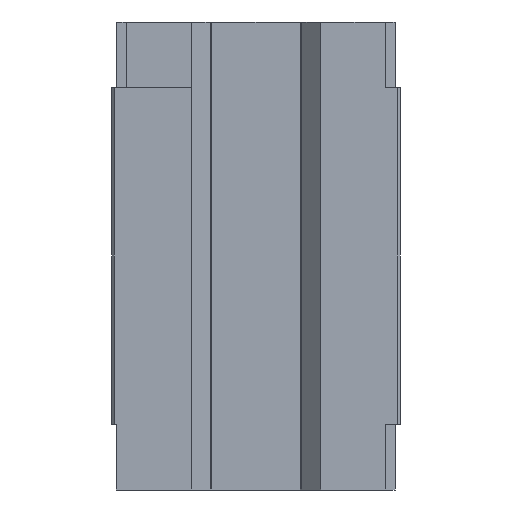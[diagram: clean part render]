
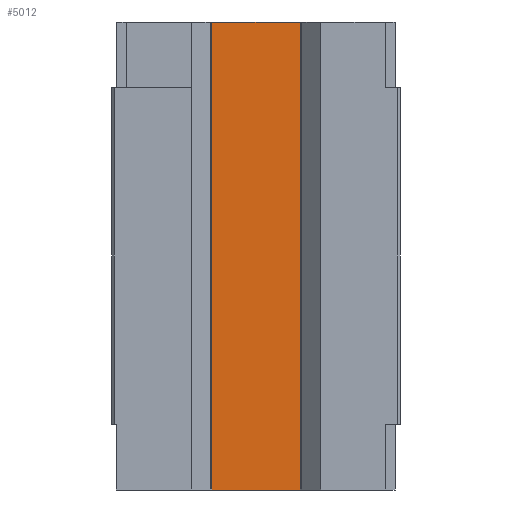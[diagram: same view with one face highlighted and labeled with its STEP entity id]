
A CAD part, front view. The second image highlights one B-rep face of the part: STEP entity #5012.
In plain terms, the highlighted planar face has unit normal (0, -1, 0).
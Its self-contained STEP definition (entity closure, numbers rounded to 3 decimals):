
#100 = VERTEX_POINT ( 'NONE', #5349 ) ;
#771 = LINE ( 'NONE', #4843, #1139 ) ;
#900 = VERTEX_POINT ( 'NONE', #1052 ) ;
#1052 = CARTESIAN_POINT ( 'NONE',  ( -9.256, 0., -48.7 ) ) ;
#1139 = VECTOR ( 'NONE', #4852, 1000. ) ;
#1237 = EDGE_CURVE ( 'NONE', #8463, #900, #4435, .T. ) ;
#1298 = ORIENTED_EDGE ( 'NONE', *, *, #4644, .F. ) ;
#1389 = ORIENTED_EDGE ( 'NONE', *, *, #1599, .T. ) ;
#1599 = EDGE_CURVE ( 'NONE', #900, #4623, #2647, .T. ) ;
#1744 = CARTESIAN_POINT ( 'NONE',  ( -9.256, 0., 48.7 ) ) ;
#1797 = CARTESIAN_POINT ( 'NONE',  ( -9.256, 0., -48.7 ) ) ;
#2046 = EDGE_LOOP ( 'NONE', ( #3548, #1389, #4470, #1298 ) ) ;
#2400 = VECTOR ( 'NONE', #4808, 1000. ) ;
#2647 = LINE ( 'NONE', #1797, #2400 ) ;
#3494 = DIRECTION ( 'NONE',  ( 0., 0., -1. ) ) ;
#3513 = CARTESIAN_POINT ( 'NONE',  ( -9.256, 0., 48.7 ) ) ;
#3548 = ORIENTED_EDGE ( 'NONE', *, *, #1237, .T. ) ;
#4084 = AXIS2_PLACEMENT_3D ( 'NONE', #7830, #7502, #7475 ) ;
#4435 = LINE ( 'NONE', #1744, #4577 ) ;
#4470 = ORIENTED_EDGE ( 'NONE', *, *, #6527, .F. ) ;
#4577 = VECTOR ( 'NONE', #3494, 1000. ) ;
#4623 = VERTEX_POINT ( 'NONE', #6831 ) ;
#4644 = EDGE_CURVE ( 'NONE', #8463, #100, #9155, .T. ) ;
#4808 = DIRECTION ( 'NONE',  ( 1., 0., 0. ) ) ;
#4843 = CARTESIAN_POINT ( 'NONE',  ( 9.256, 0., 48.7 ) ) ;
#4852 = DIRECTION ( 'NONE',  ( 0., 0., -1. ) ) ;
#5012 = ADVANCED_FACE ( 'NONE', ( #7560 ), #7557, .F. ) ;
#5349 = CARTESIAN_POINT ( 'NONE',  ( 9.256, 0., 48.7 ) ) ;
#6073 = DIRECTION ( 'NONE',  ( 1., 0., 0. ) ) ;
#6146 = CARTESIAN_POINT ( 'NONE',  ( -20.22, 0., 48.7 ) ) ;
#6527 = EDGE_CURVE ( 'NONE', #100, #4623, #771, .T. ) ;
#6831 = CARTESIAN_POINT ( 'NONE',  ( 9.256, 0., -48.7 ) ) ;
#7475 = DIRECTION ( 'NONE',  ( -1., 0., 0. ) ) ;
#7502 = DIRECTION ( 'NONE',  ( 0., 1., 0. ) ) ;
#7557 = PLANE ( 'NONE',  #4084 ) ;
#7560 = FACE_OUTER_BOUND ( 'NONE', #2046, .T. ) ;
#7830 = CARTESIAN_POINT ( 'NONE',  ( -9.256, 0., 48.7 ) ) ;
#8463 = VERTEX_POINT ( 'NONE', #3513 ) ;
#9155 = LINE ( 'NONE', #6146, #9166 ) ;
#9166 = VECTOR ( 'NONE', #6073, 1000. ) ;
